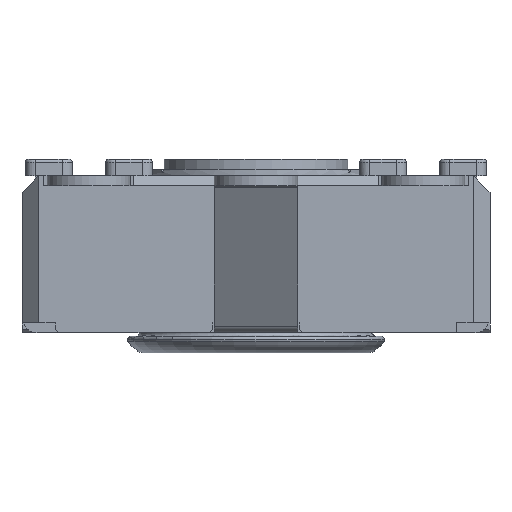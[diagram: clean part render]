
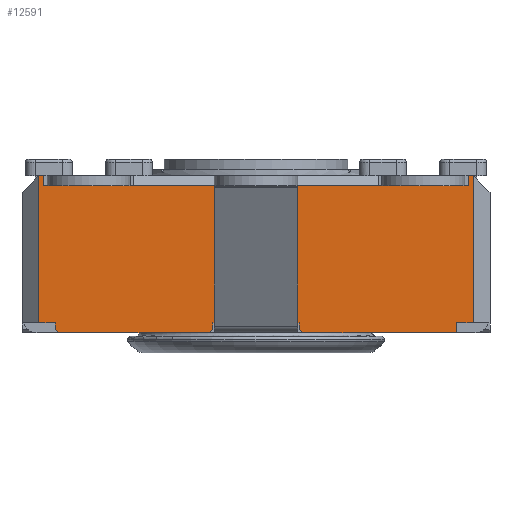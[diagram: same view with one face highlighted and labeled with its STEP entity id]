
A CAD part, front view. The second image highlights one B-rep face of the part: STEP entity #12591.
In plain terms, the highlighted planar face has unit normal (0, -1, 0).
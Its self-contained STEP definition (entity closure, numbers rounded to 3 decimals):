
#401=PLANE('',#13452);
#982=FACE_OUTER_BOUND('',#1649,.T.);
#1649=EDGE_LOOP('',(#10162,#10163,#10164,#10165,#10166,#10167,#10168,#10169,
#10170,#10171,#10172,#10173,#10174,#10175,#10176,#10177,#10178,#10179,#10180,
#10181,#10182,#10183,#10184,#10185,#10186,#10187,#10188));
#2047=LINE('',#17628,#3479);
#2118=LINE('',#17823,#3550);
#2119=LINE('',#17825,#3551);
#2120=LINE('',#17828,#3552);
#2125=LINE('',#17838,#3557);
#2187=LINE('',#17969,#3619);
#2194=LINE('',#17986,#3626);
#2323=LINE('',#18390,#3755);
#2338=LINE('',#18419,#3770);
#2406=LINE('',#18571,#3838);
#2414=LINE('',#18584,#3846);
#2532=LINE('',#19058,#3964);
#2739=LINE('',#19582,#4171);
#2744=LINE('',#19591,#4176);
#2747=LINE('',#19596,#4179);
#2835=LINE('',#19874,#4267);
#2843=LINE('',#19892,#4275);
#2849=LINE('',#19900,#4281);
#2850=LINE('',#19903,#4282);
#2851=LINE('',#19905,#4283);
#2852=LINE('',#19907,#4284);
#2853=LINE('',#19908,#4285);
#2854=LINE('',#19909,#4286);
#2855=LINE('',#19910,#4287);
#2856=LINE('',#19911,#4288);
#2857=LINE('',#19912,#4289);
#2858=LINE('',#19913,#4290);
#3479=VECTOR('',#14118,10.);
#3550=VECTOR('',#14279,10.);
#3551=VECTOR('',#14282,10.);
#3552=VECTOR('',#14285,10.);
#3557=VECTOR('',#14290,10.);
#3619=VECTOR('',#14402,10.);
#3626=VECTOR('',#14415,10.);
#3755=VECTOR('',#14840,10.);
#3770=VECTOR('',#14869,10.);
#3838=VECTOR('',#15019,10.);
#3846=VECTOR('',#15029,10.);
#3964=VECTOR('',#15289,10.);
#4171=VECTOR('',#15638,10.);
#4176=VECTOR('',#15643,10.);
#4179=VECTOR('',#15648,10.);
#4267=VECTOR('',#15874,10.);
#4275=VECTOR('',#15886,10.);
#4281=VECTOR('',#15896,10.);
#4282=VECTOR('',#15899,10.);
#4283=VECTOR('',#15900,10.);
#4284=VECTOR('',#15901,10.);
#4285=VECTOR('',#15902,10.);
#4286=VECTOR('',#15903,10.);
#4287=VECTOR('',#15904,10.);
#4288=VECTOR('',#15905,10.);
#4289=VECTOR('',#15906,10.);
#4290=VECTOR('',#15907,10.);
#5196=VERTEX_POINT('',#17503);
#5248=VERTEX_POINT('',#17627);
#5276=VERTEX_POINT('',#17703);
#5299=VERTEX_POINT('',#17753);
#5323=VERTEX_POINT('',#17809);
#5325=VERTEX_POINT('',#17815);
#5328=VERTEX_POINT('',#17827);
#5332=VERTEX_POINT('',#17835);
#5333=VERTEX_POINT('',#17837);
#5377=VERTEX_POINT('',#17967);
#5384=VERTEX_POINT('',#17985);
#5510=VERTEX_POINT('',#18387);
#5511=VERTEX_POINT('',#18389);
#5517=VERTEX_POINT('',#18416);
#5518=VERTEX_POINT('',#18418);
#5561=VERTEX_POINT('',#18570);
#5565=VERTEX_POINT('',#18582);
#5693=VERTEX_POINT('',#19054);
#5844=VERTEX_POINT('',#19581);
#5848=VERTEX_POINT('',#19589);
#5901=VERTEX_POINT('',#19872);
#5902=VERTEX_POINT('',#19873);
#5909=VERTEX_POINT('',#19890);
#5910=VERTEX_POINT('',#19891);
#5911=VERTEX_POINT('',#19902);
#5912=VERTEX_POINT('',#19904);
#5913=VERTEX_POINT('',#19906);
#6460=EDGE_CURVE('',#5248,#5196,#2047,.T.);
#6557=EDGE_CURVE('',#5323,#5276,#2118,.T.);
#6558=EDGE_CURVE('',#5325,#5299,#2119,.T.);
#6559=EDGE_CURVE('',#5328,#5248,#2120,.T.);
#6564=EDGE_CURVE('',#5333,#5332,#2125,.T.);
#6631=EDGE_CURVE('',#5276,#5377,#2187,.T.);
#6639=EDGE_CURVE('',#5384,#5323,#2194,.T.);
#6842=EDGE_CURVE('',#5511,#5510,#2323,.T.);
#6857=EDGE_CURVE('',#5518,#5517,#2338,.T.);
#6934=EDGE_CURVE('',#5561,#5325,#2406,.T.);
#6942=EDGE_CURVE('',#5299,#5565,#2414,.T.);
#7109=EDGE_CURVE('',#5518,#5693,#2532,.T.);
#7337=EDGE_CURVE('',#5844,#5693,#2739,.T.);
#7342=EDGE_CURVE('',#5196,#5848,#2744,.T.);
#7345=EDGE_CURVE('',#5333,#5510,#2747,.T.);
#7452=EDGE_CURVE('',#5901,#5902,#2835,.T.);
#7460=EDGE_CURVE('',#5909,#5910,#2843,.T.);
#7466=EDGE_CURVE('',#5328,#5901,#2849,.T.);
#7467=EDGE_CURVE('',#5848,#5911,#2850,.T.);
#7468=EDGE_CURVE('',#5912,#5911,#2851,.T.);
#7469=EDGE_CURVE('',#5912,#5913,#2852,.T.);
#7470=EDGE_CURVE('',#5913,#5844,#2853,.T.);
#7471=EDGE_CURVE('',#5517,#5561,#2854,.T.);
#7472=EDGE_CURVE('',#5384,#5565,#2855,.T.);
#7473=EDGE_CURVE('',#5377,#5511,#2856,.T.);
#7474=EDGE_CURVE('',#5332,#5910,#2857,.T.);
#7475=EDGE_CURVE('',#5909,#5902,#2858,.T.);
#10162=ORIENTED_EDGE('',*,*,#7452,.F.);
#10163=ORIENTED_EDGE('',*,*,#7466,.F.);
#10164=ORIENTED_EDGE('',*,*,#6559,.T.);
#10165=ORIENTED_EDGE('',*,*,#6460,.T.);
#10166=ORIENTED_EDGE('',*,*,#7342,.T.);
#10167=ORIENTED_EDGE('',*,*,#7467,.T.);
#10168=ORIENTED_EDGE('',*,*,#7468,.F.);
#10169=ORIENTED_EDGE('',*,*,#7469,.T.);
#10170=ORIENTED_EDGE('',*,*,#7470,.T.);
#10171=ORIENTED_EDGE('',*,*,#7337,.T.);
#10172=ORIENTED_EDGE('',*,*,#7109,.F.);
#10173=ORIENTED_EDGE('',*,*,#6857,.T.);
#10174=ORIENTED_EDGE('',*,*,#7471,.T.);
#10175=ORIENTED_EDGE('',*,*,#6934,.T.);
#10176=ORIENTED_EDGE('',*,*,#6558,.T.);
#10177=ORIENTED_EDGE('',*,*,#6942,.T.);
#10178=ORIENTED_EDGE('',*,*,#7472,.F.);
#10179=ORIENTED_EDGE('',*,*,#6639,.T.);
#10180=ORIENTED_EDGE('',*,*,#6557,.T.);
#10181=ORIENTED_EDGE('',*,*,#6631,.T.);
#10182=ORIENTED_EDGE('',*,*,#7473,.T.);
#10183=ORIENTED_EDGE('',*,*,#6842,.T.);
#10184=ORIENTED_EDGE('',*,*,#7345,.F.);
#10185=ORIENTED_EDGE('',*,*,#6564,.T.);
#10186=ORIENTED_EDGE('',*,*,#7474,.T.);
#10187=ORIENTED_EDGE('',*,*,#7460,.F.);
#10188=ORIENTED_EDGE('',*,*,#7475,.T.);
#12591=ADVANCED_FACE('',(#982),#401,.T.);
#13452=AXIS2_PLACEMENT_3D('',#19901,#15897,#15898);
#14118=DIRECTION('',(1.,0.,0.));
#14279=DIRECTION('',(-1.,0.,0.));
#14282=DIRECTION('',(-1.,0.,0.));
#14285=DIRECTION('',(1.,0.,0.));
#14290=DIRECTION('',(1.,0.,0.));
#14402=DIRECTION('',(-1.,0.,0.));
#14415=DIRECTION('',(-1.,0.,0.));
#14840=DIRECTION('',(-1.,0.,0.));
#14869=DIRECTION('',(-1.,0.,0.));
#15019=DIRECTION('',(-1.,0.,0.));
#15029=DIRECTION('',(-1.,0.,0.));
#15289=DIRECTION('',(0.,0.,-1.));
#15638=DIRECTION('',(1.,0.,0.));
#15643=DIRECTION('',(1.,0.,0.));
#15648=DIRECTION('',(0.,0.,1.));
#15874=DIRECTION('',(-0.707,0.,-0.707));
#15886=DIRECTION('',(-0.707,0.,0.707));
#15896=DIRECTION('',(0.,0.,-1.));
#15897=DIRECTION('center_axis',(0.,-1.,0.));
#15898=DIRECTION('ref_axis',(0.,0.,-1.));
#15899=DIRECTION('',(0.,0.,-1.));
#15900=DIRECTION('',(-0.707,0.,0.707));
#15901=DIRECTION('',(1.,0.,0.));
#15902=DIRECTION('',(0.,0.,1.));
#15903=DIRECTION('',(0.,0.,-1.));
#15904=DIRECTION('',(1.,0.,0.));
#15905=DIRECTION('',(0.,0.,1.));
#15906=DIRECTION('',(0.,0.,-1.));
#15907=DIRECTION('',(1.,0.,0.));
#17503=CARTESIAN_POINT('',(-6.217,-9.898,0.));
#17627=CARTESIAN_POINT('',(-8.717,-9.898,0.));
#17628=CARTESIAN_POINT('',(-14.467,-9.898,0.));
#17703=CARTESIAN_POINT('',(-13.717,-9.898,4.1));
#17753=CARTESIAN_POINT('',(-3.717,-9.898,4.1));
#17809=CARTESIAN_POINT('',(-11.217,-9.898,4.1));
#17815=CARTESIAN_POINT('',(-1.217,-9.898,4.1));
#17823=CARTESIAN_POINT('',(-3.944,-9.898,4.1));
#17825=CARTESIAN_POINT('',(-1.862,-9.898,4.1));
#17827=CARTESIAN_POINT('',(-8.767,-9.898,0.));
#17828=CARTESIAN_POINT('',(-14.467,-9.898,0.));
#17835=CARTESIAN_POINT('',(-13.467,-9.898,0.));
#17837=CARTESIAN_POINT('',(-13.967,-9.898,0.));
#17838=CARTESIAN_POINT('',(-7.245,-9.898,0.));
#17967=CARTESIAN_POINT('',(-13.817,-9.898,4.1));
#17969=CARTESIAN_POINT('',(-3.944,-9.898,4.1));
#17985=CARTESIAN_POINT('',(-11.117,-9.898,4.1));
#17986=CARTESIAN_POINT('',(-3.944,-9.898,4.1));
#18387=CARTESIAN_POINT('',(-13.967,-9.898,4.4));
#18389=CARTESIAN_POINT('',(-13.817,-9.898,4.4));
#18390=CARTESIAN_POINT('',(-14.467,-9.898,4.4));
#18416=CARTESIAN_POINT('',(-1.117,-9.898,4.4));
#18418=CARTESIAN_POINT('',(-0.967,-9.898,4.4));
#18419=CARTESIAN_POINT('',(-14.467,-9.898,4.4));
#18570=CARTESIAN_POINT('',(-1.117,-9.898,4.1));
#18571=CARTESIAN_POINT('',(-1.862,-9.898,4.1));
#18582=CARTESIAN_POINT('',(-3.817,-9.898,4.1));
#18584=CARTESIAN_POINT('',(-1.862,-9.898,4.1));
#19054=CARTESIAN_POINT('',(-0.967,-9.898,0.));
#19058=CARTESIAN_POINT('',(-0.967,-9.898,0.));
#19581=CARTESIAN_POINT('',(-1.467,-9.898,0.));
#19582=CARTESIAN_POINT('',(-0.646,-9.898,0.));
#19589=CARTESIAN_POINT('',(-6.167,-9.898,0.));
#19591=CARTESIAN_POINT('',(-14.467,-9.898,0.));
#19596=CARTESIAN_POINT('',(-13.967,-9.898,0.));
#19872=CARTESIAN_POINT('',(-8.767,-9.898,-0.2));
#19873=CARTESIAN_POINT('',(-8.867,-9.898,-0.3));
#19874=CARTESIAN_POINT('',(-6.667,-9.898,1.9));
#19890=CARTESIAN_POINT('',(-13.367,-9.898,-0.3));
#19891=CARTESIAN_POINT('',(-13.467,-9.898,-0.2));
#19892=CARTESIAN_POINT('',(-10.242,-9.898,-3.425));
#19900=CARTESIAN_POINT('',(-8.767,-9.898,0.));
#19901=CARTESIAN_POINT('Origin',(-0.467,-9.898,0.));
#19902=CARTESIAN_POINT('',(-6.167,-9.898,-0.2));
#19903=CARTESIAN_POINT('',(-6.167,-9.898,0.));
#19904=CARTESIAN_POINT('',(-6.067,-9.898,-0.3));
#19905=CARTESIAN_POINT('',(-4.767,-9.898,-1.6));
#19906=CARTESIAN_POINT('',(-1.467,-9.898,-0.3));
#19907=CARTESIAN_POINT('',(-0.467,-9.898,-0.3));
#19908=CARTESIAN_POINT('',(-1.467,-9.898,-0.15));
#19909=CARTESIAN_POINT('',(-1.117,-9.898,2.2));
#19910=CARTESIAN_POINT('',(-3.967,-9.898,4.1));
#19911=CARTESIAN_POINT('',(-13.817,-9.898,2.2));
#19912=CARTESIAN_POINT('',(-13.467,-9.898,-0.15));
#19913=CARTESIAN_POINT('',(-0.467,-9.898,-0.3));
